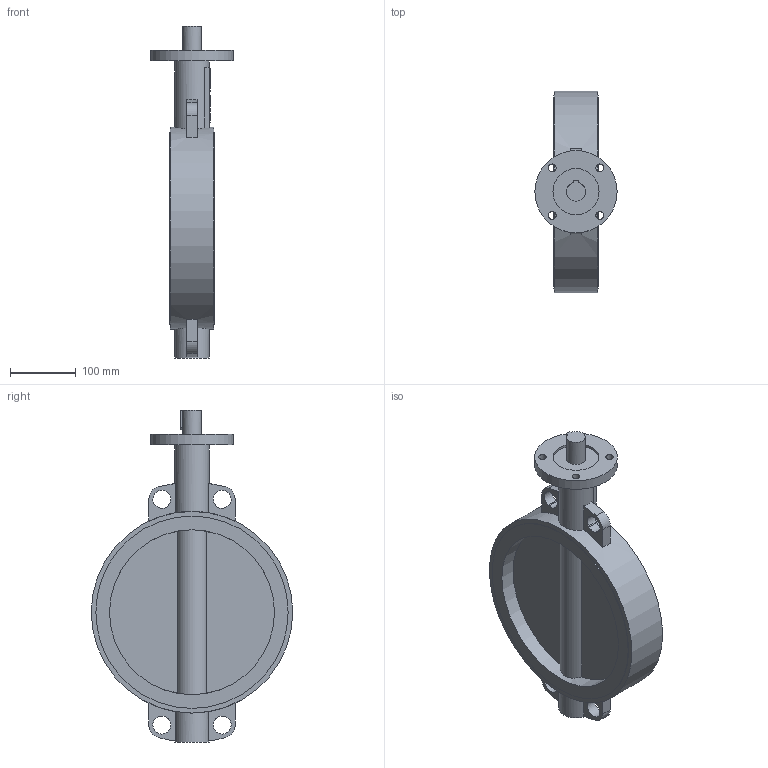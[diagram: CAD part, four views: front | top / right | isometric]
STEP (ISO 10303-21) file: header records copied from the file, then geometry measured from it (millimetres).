
FILE_DESCRIPTION(('STEP AP203'), '1');
FILE_NAME('Çàòâîð 017W.Z(ñòàëü) DN250 PN10_16 áåç èñï. ìåõ-ìà', '', ('UNSPECIFIED'), ('UNSPECIFIED'), 'ASCON STEP Converter 1.6', 'ASCON Math Kernel', '');
FILE_SCHEMA(('CONFIG_CONTROL_DESIGN'));
Length unit declared in the file: millimetre
Bounding box: 125 x 306 x 504 mm (x, y, z)
Volume: 3438520.9 mm3; surface area: 328109 mm2
Topology: 1 solids, 1 shells, 769 faces, 2222 edges, 1481 vertices
Faces by surface type: cylinder 595, plane 174
Full cylindrical faces by diameter (mm): 12 x4, 28.6 x1, 52 x2, 70 x1, 125 x1, 250.4 x2, 292 x2, 306 x1
Entity records: 32652 total; most frequent: CARTESIAN_POINT 5065, DIRECTION 4929, ORIENTED_EDGE 4416, EDGE_CURVE 2208, AXIS2_PLACEMENT_3D 1968, VERTEX_POINT 1481, CIRCLE 1198, LINE 993
